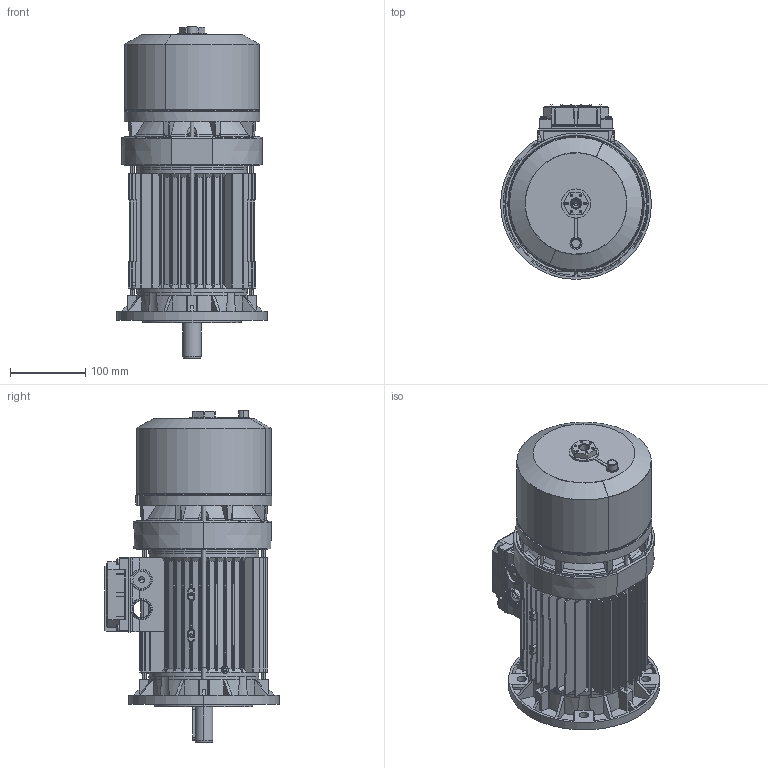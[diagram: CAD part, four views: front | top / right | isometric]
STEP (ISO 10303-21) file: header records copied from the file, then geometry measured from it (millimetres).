
FILE_DESCRIPTION (( 'STEP AP214' ), '1' );
FILE_NAME ('M02FB0013.STEP', '2018-12-18T16:57:48', ( '' ), ( '' ), 'SwSTEP 2.0', 'SolidWorks 2018', '' );
FILE_SCHEMA (( 'AUTOMOTIVE_DESIGN' ));
Length unit declared in the file: millimetre
Products named in the file (15): Tirante BA 90L - DBA60094; Scudo a flangia B5 Fi 200 BA-BM 90 - DDAA00195; Chiavetta 90; Albero BA 90 L; Cuffia serie BA 90; Convogliatore con pista d''attrito P2 BA90; Scudo Lato Freno BA90 P1 - DDAE0094; Carcassa 90 L B5; M02FB0013; Guarnizione Coperchio Semplice Scatola BA 90 100 112 - DDAL0094; Coperchio per Scatola Singola 90 - 100 - 112 con viti; Vite  a testa bombata M4x16; Coperchio per Scatola Singola 90 - 100 - 112; O-ring freno BA 90; Vite a Testa Esagona con foro e tappo 71-112 - Modificata
Assembly tree (20 placements, depth 3):
  M02FB0013
    Carcassa 90 L B5
    Scudo Lato Freno BA90 P1 - DDAE0094
    Convogliatore con pista d''attrito P2 BA90
    Cuffia serie BA 90
    Albero BA 90 L
    Chiavetta 90
    Scudo a flangia B5 Fi 200 BA-BM 90 - DDAA00195
    Tirante BA 90L - DBA60094  x4
    Vite a Testa Esagona con foro e tappo 71-112 - Modificata
    O-ring freno BA 90
    Coperchio per Scatola Singola 90 - 100 - 112 con viti
      Coperchio per Scatola Singola 90 - 100 - 112
      Vite  a testa bombata M4x16  x4
      Guarnizione Coperchio Semplice Scatola BA 90 100 112 - DDAL0094
Bounding box: 200 x 231.5 x 440.18 mm (x, y, z)
Volume: 1729415.7 mm3; surface area: 989557.1 mm2
Topology: 23 solids, 23 shells, 3221 faces, 8689 edges, 5528 vertices
Faces by surface type: plane 1151, cylinder 991, cone 433, torus 400, bspline 244, sphere 2
Entity records: 114222 total; most frequent: CARTESIAN_POINT 40748, ORIENTED_EDGE 16194, DIRECTION 14075, EDGE_CURVE 8097, AXIS2_PLACEMENT_3D 5371, VERTEX_POINT 5204, VECTOR 3333, LINE 3333
